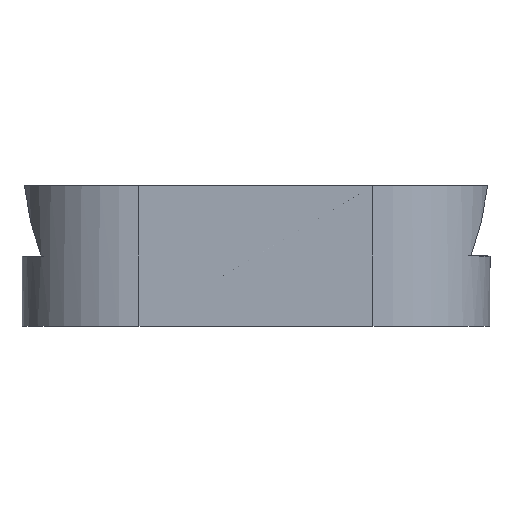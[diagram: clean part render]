
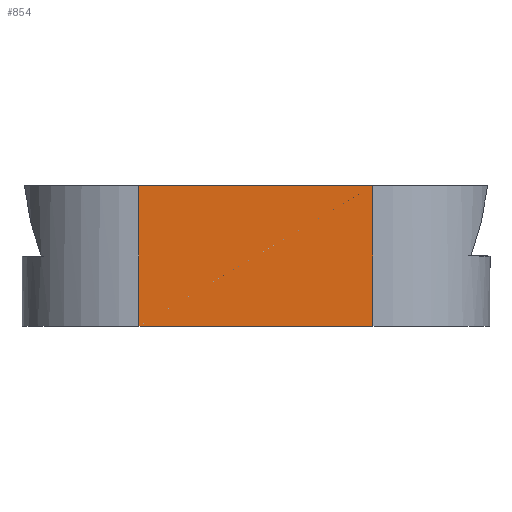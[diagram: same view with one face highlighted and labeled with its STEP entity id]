
A CAD part, front view. The second image highlights one B-rep face of the part: STEP entity #854.
In plain terms, the highlighted planar face has unit normal (0, -1, 0).
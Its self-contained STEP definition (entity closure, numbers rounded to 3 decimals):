
#199 = VECTOR ( 'NONE', #2428, 1000. ) ;
#290 = CARTESIAN_POINT ( 'NONE',  ( -20., -5., 0. ) ) ;
#300 = CARTESIAN_POINT ( 'NONE',  ( 10., -5., 0. ) ) ;
#358 = ORIENTED_EDGE ( 'NONE', *, *, #1201, .T. ) ;
#425 = ORIENTED_EDGE ( 'NONE', *, *, #1029, .T. ) ;
#472 = CARTESIAN_POINT ( 'NONE',  ( 0., -5., 0. ) ) ;
#493 = ORIENTED_EDGE ( 'NONE', *, *, #898, .T. ) ;
#557 = VECTOR ( 'NONE', #869, 1000. ) ;
#667 = DIRECTION ( 'NONE',  ( 0., 1., 0. ) ) ;
#674 = VECTOR ( 'NONE', #1247, 1000. ) ;
#799 = CARTESIAN_POINT ( 'NONE',  ( -10., -5., 12. ) ) ;
#805 = VERTEX_POINT ( 'NONE', #1422 ) ;
#854 = ADVANCED_FACE ( 'NONE', ( #1848 ), #1633, .F. ) ;
#869 = DIRECTION ( 'NONE',  ( 0., 0., 1. ) ) ;
#898 = EDGE_CURVE ( 'NONE', #1851, #1360, #2232, .T. ) ;
#990 = VECTOR ( 'NONE', #1901, 1000. ) ;
#1029 = EDGE_CURVE ( 'NONE', #1360, #805, #1999, .T. ) ;
#1093 = CARTESIAN_POINT ( 'NONE',  ( -20., -5., 12. ) ) ;
#1201 = EDGE_CURVE ( 'NONE', #805, #1393, #1203, .T. ) ;
#1203 = LINE ( 'NONE', #290, #674 ) ;
#1247 = DIRECTION ( 'NONE',  ( 1., 0., 0. ) ) ;
#1312 = EDGE_LOOP ( 'NONE', ( #358, #1334, #493, #425 ) ) ;
#1334 = ORIENTED_EDGE ( 'NONE', *, *, #2357, .T. ) ;
#1360 = VERTEX_POINT ( 'NONE', #799 ) ;
#1393 = VERTEX_POINT ( 'NONE', #1961 ) ;
#1422 = CARTESIAN_POINT ( 'NONE',  ( -10., -5., 0. ) ) ;
#1633 = PLANE ( 'NONE',  #2315 ) ;
#1638 = LINE ( 'NONE', #300, #557 ) ;
#1650 = DIRECTION ( 'NONE',  ( 0., 0., 1. ) ) ;
#1848 = FACE_OUTER_BOUND ( 'NONE', #1312, .T. ) ;
#1851 = VERTEX_POINT ( 'NONE', #2420 ) ;
#1901 = DIRECTION ( 'NONE',  ( 0., 0., -1. ) ) ;
#1961 = CARTESIAN_POINT ( 'NONE',  ( 10., -5., 0. ) ) ;
#1999 = LINE ( 'NONE', #2089, #990 ) ;
#2089 = CARTESIAN_POINT ( 'NONE',  ( -10., -5., 0. ) ) ;
#2232 = LINE ( 'NONE', #1093, #199 ) ;
#2315 = AXIS2_PLACEMENT_3D ( 'NONE', #472, #667, #1650 ) ;
#2357 = EDGE_CURVE ( 'NONE', #1393, #1851, #1638, .T. ) ;
#2420 = CARTESIAN_POINT ( 'NONE',  ( 10., -5., 12. ) ) ;
#2428 = DIRECTION ( 'NONE',  ( -1., 0., 0. ) ) ;
